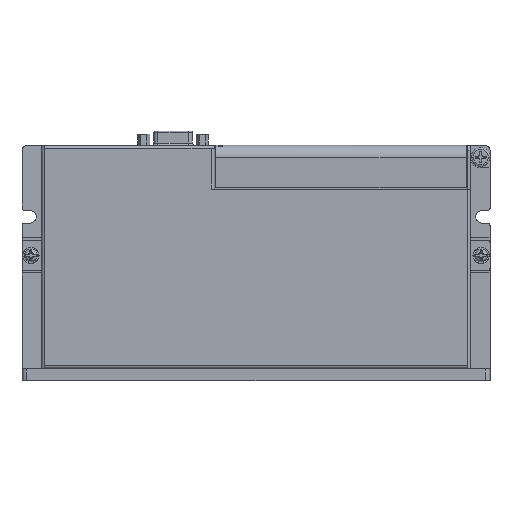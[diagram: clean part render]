
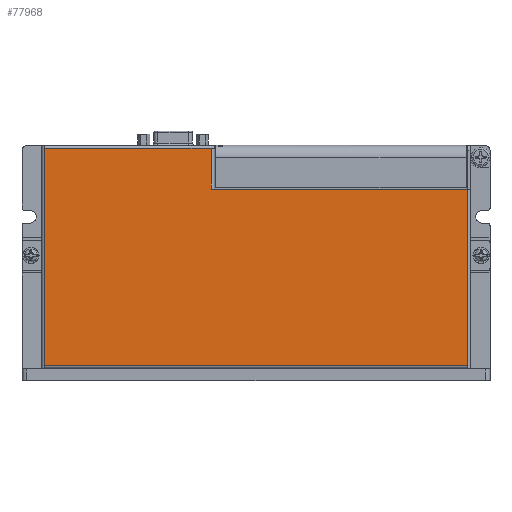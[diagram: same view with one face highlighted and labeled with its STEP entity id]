
A CAD part, top view. The second image highlights one B-rep face of the part: STEP entity #77968.
In plain terms, the highlighted planar face has unit normal (0, 0, 1).
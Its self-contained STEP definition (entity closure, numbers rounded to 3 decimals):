
#74505=DIRECTION('',(0.,1.,0.));
#74506=VECTOR('',#74505,17.4);
#74507=CARTESIAN_POINT('',(-19.5,28.5,8.));
#74508=LINE('',#74507,#74506);
#74509=DIRECTION('',(-1.,0.,0.));
#74510=VECTOR('',#74509,109.6);
#74511=CARTESIAN_POINT('',(90.1,28.5,8.));
#74512=LINE('',#74511,#74510);
#74573=DIRECTION('',(1.,0.,0.));
#74574=VECTOR('',#74573,180.8);
#74575=CARTESIAN_POINT('',(-90.7,-47.,8.));
#74576=LINE('',#74575,#74574);
#74961=DIRECTION('',(0.,-1.,0.));
#74962=VECTOR('',#74961,92.9);
#74963=CARTESIAN_POINT('',(-90.7,45.9,8.));
#74964=LINE('',#74963,#74962);
#74991=DIRECTION('',(-1.,0.,0.));
#74992=VECTOR('',#74991,71.2);
#74993=CARTESIAN_POINT('',(-19.5,45.9,8.));
#74994=LINE('',#74993,#74992);
#75925=DIRECTION('',(0.,1.,0.));
#75926=VECTOR('',#75925,75.5);
#75927=CARTESIAN_POINT('',(90.1,-47.,8.));
#75928=LINE('',#75927,#75926);
#77089=CARTESIAN_POINT('',(-19.5,28.5,8.));
#77090=VERTEX_POINT('',#77089);
#77091=CARTESIAN_POINT('',(-19.5,45.9,8.));
#77092=VERTEX_POINT('',#77091);
#77093=CARTESIAN_POINT('',(90.1,28.5,8.));
#77094=VERTEX_POINT('',#77093);
#77095=CARTESIAN_POINT('',(90.1,-47.,8.));
#77096=VERTEX_POINT('',#77095);
#77097=CARTESIAN_POINT('',(-90.7,-47.,8.));
#77098=VERTEX_POINT('',#77097);
#77099=CARTESIAN_POINT('',(-90.7,45.9,8.));
#77100=VERTEX_POINT('',#77099);
#77950=CARTESIAN_POINT('',(0.,0.,8.));
#77951=DIRECTION('',(0.,0.,1.));
#77952=DIRECTION('',(1.,0.,0.));
#77953=AXIS2_PLACEMENT_3D('',#77950,#77951,#77952);
#77954=PLANE('',#77953);
#77955=ORIENTED_EDGE('',*,*,#77943,.F.);
#77957=ORIENTED_EDGE('',*,*,#77956,.F.);
#77959=ORIENTED_EDGE('',*,*,#77958,.F.);
#77961=ORIENTED_EDGE('',*,*,#77960,.F.);
#77963=ORIENTED_EDGE('',*,*,#77962,.F.);
#77965=ORIENTED_EDGE('',*,*,#77964,.F.);
#77966=EDGE_LOOP('',(#77955,#77957,#77959,#77961,#77963,#77965));
#77967=FACE_OUTER_BOUND('',#77966,.F.);
#77968=ADVANCED_FACE('',(#77967),#77954,.T.);
#77943=EDGE_CURVE('',#77090,#77092,#74508,.T.);
#77956=EDGE_CURVE('',#77094,#77090,#74512,.T.);
#77958=EDGE_CURVE('',#77096,#77094,#75928,.T.);
#77960=EDGE_CURVE('',#77098,#77096,#74576,.T.);
#77962=EDGE_CURVE('',#77100,#77098,#74964,.T.);
#77964=EDGE_CURVE('',#77092,#77100,#74994,.T.);
